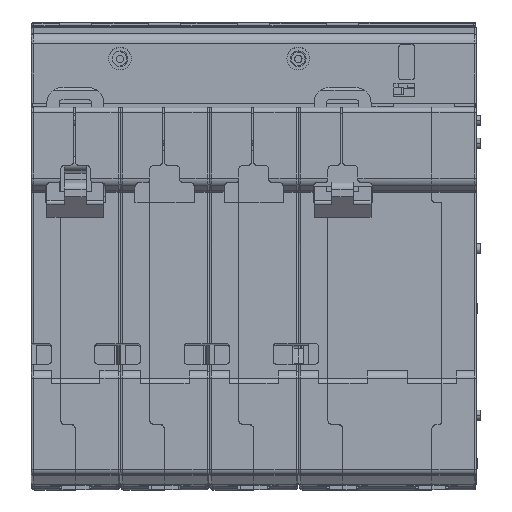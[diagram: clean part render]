
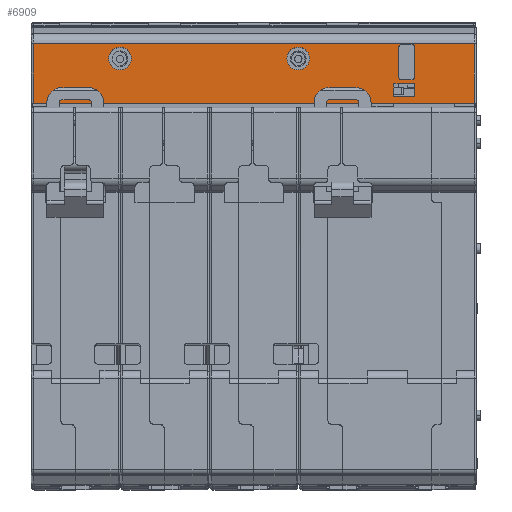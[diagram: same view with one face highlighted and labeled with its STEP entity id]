
A CAD part, top view. The second image highlights one B-rep face of the part: STEP entity #6909.
In plain terms, the highlighted planar face has unit normal (0, 0, 1).
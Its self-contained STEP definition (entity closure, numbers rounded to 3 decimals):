
#1502=CARTESIAN_POINT('',(8.85,9.5,-6.6));
#1503=DIRECTION('',(0.,0.,1.));
#1504=DIRECTION('',(0.,1.,0.));
#1505=AXIS2_PLACEMENT_3D('',#1502,#1503,#1504);
#1507=CARTESIAN_POINT('',(8.85,9.5,-6.6));
#1508=DIRECTION('',(0.,0.,1.));
#1509=DIRECTION('',(0.,-1.,0.));
#1510=AXIS2_PLACEMENT_3D('',#1507,#1508,#1509);
#1512=CARTESIAN_POINT('',(-26.55,9.5,-6.6));
#1513=DIRECTION('',(0.,0.,1.));
#1514=DIRECTION('',(0.,1.,0.));
#1515=AXIS2_PLACEMENT_3D('',#1512,#1513,#1514);
#1517=CARTESIAN_POINT('',(-26.55,9.5,-6.6));
#1518=DIRECTION('',(0.,0.,1.));
#1519=DIRECTION('',(0.,-1.,0.));
#1520=AXIS2_PLACEMENT_3D('',#1517,#1518,#1519);
#1522=DIRECTION('',(0.,1.,0.));
#1523=VECTOR('',#1522,2.55);
#1524=CARTESIAN_POINT('',(31.95,1.95,-6.6));
#1525=LINE('',#1524,#1523);
#1526=DIRECTION('',(-1.,0.,0.));
#1527=VECTOR('',#1526,4.1);
#1528=CARTESIAN_POINT('',(31.95,4.5,-6.6));
#1529=LINE('',#1528,#1527);
#1530=DIRECTION('',(0.,-1.,0.));
#1531=VECTOR('',#1530,2.55);
#1532=CARTESIAN_POINT('',(27.85,4.5,-6.6));
#1533=LINE('',#1532,#1531);
#1534=DIRECTION('',(1.,0.,0.));
#1535=VECTOR('',#1534,4.1);
#1536=CARTESIAN_POINT('',(27.85,1.95,-6.6));
#1537=LINE('',#1536,#1535);
#1538=DIRECTION('',(0.,-1.,0.));
#1539=VECTOR('',#1538,6.);
#1540=CARTESIAN_POINT('',(31.95,11.8,-6.6));
#1541=LINE('',#1540,#1539);
#1542=DIRECTION('',(-1.,0.,0.));
#1543=VECTOR('',#1542,2.1);
#1544=CARTESIAN_POINT('',(31.45,12.3,-6.6));
#1545=LINE('',#1544,#1543);
#1546=CARTESIAN_POINT('',(29.35,11.8,-6.6));
#1547=DIRECTION('',(0.,0.,1.));
#1548=DIRECTION('',(0.,1.,0.));
#1549=AXIS2_PLACEMENT_3D('',#1546,#1547,#1548);
#1551=DIRECTION('',(0.,-1.,0.));
#1552=VECTOR('',#1551,6.);
#1553=CARTESIAN_POINT('',(28.85,11.8,-6.6));
#1554=LINE('',#1553,#1552);
#1555=CARTESIAN_POINT('',(29.35,5.8,-6.6));
#1556=DIRECTION('',(0.,0.,1.));
#1557=DIRECTION('',(-1.,0.,0.));
#1558=AXIS2_PLACEMENT_3D('',#1555,#1556,#1557);
#1560=DIRECTION('',(1.,0.,0.));
#1561=VECTOR('',#1560,2.1);
#1562=CARTESIAN_POINT('',(29.35,5.3,-6.6));
#1563=LINE('',#1562,#1561);
#1564=DIRECTION('',(-1.,0.,0.));
#1565=VECTOR('',#1564,87.7);
#1566=CARTESIAN_POINT('',(43.85,0.6,-6.6));
#1567=LINE('',#1566,#1565);
#1568=DIRECTION('',(0.,1.,0.));
#1569=VECTOR('',#1568,11.874);
#1570=CARTESIAN_POINT('',(-43.85,0.6,-6.6));
#1571=LINE('',#1570,#1569);
#1572=DIRECTION('',(-1.,0.,0.));
#1573=VECTOR('',#1572,87.7);
#1574=CARTESIAN_POINT('',(43.85,12.474,-6.6));
#1575=LINE('',#1574,#1573);
#1576=DIRECTION('',(0.,-1.,0.));
#1577=VECTOR('',#1576,11.874);
#1578=CARTESIAN_POINT('',(43.85,12.474,-6.6));
#1579=LINE('',#1578,#1577);
#4229=CARTESIAN_POINT('',(31.45,11.8,-6.6));
#4230=DIRECTION('',(0.,0.,-1.));
#4231=DIRECTION('',(0.,1.,0.));
#4232=AXIS2_PLACEMENT_3D('',#4229,#4230,#4231);
#4234=CARTESIAN_POINT('',(31.45,5.8,-6.6));
#4235=DIRECTION('',(0.,0.,-1.));
#4236=DIRECTION('',(1.,0.,0.));
#4237=AXIS2_PLACEMENT_3D('',#4234,#4235,#4236);
#4458=CARTESIAN_POINT('',(8.85,11.75,-6.6));
#4459=CARTESIAN_POINT('',(8.85,7.25,-6.6));
#4460=VERTEX_POINT('',#4458);
#4461=VERTEX_POINT('',#4459);
#4462=CARTESIAN_POINT('',(-26.55,11.75,-6.6));
#4463=CARTESIAN_POINT('',(-26.55,7.25,-6.6));
#4464=VERTEX_POINT('',#4462);
#4465=VERTEX_POINT('',#4463);
#4630=CARTESIAN_POINT('',(31.95,1.95,-6.6));
#4631=CARTESIAN_POINT('',(31.95,4.5,-6.6));
#4632=VERTEX_POINT('',#4630);
#4633=VERTEX_POINT('',#4631);
#4634=CARTESIAN_POINT('',(27.85,4.5,-6.6));
#4635=VERTEX_POINT('',#4634);
#4636=CARTESIAN_POINT('',(27.85,1.95,-6.6));
#4637=VERTEX_POINT('',#4636);
#5631=CARTESIAN_POINT('',(-43.85,12.474,-6.6));
#5632=VERTEX_POINT('',#5631);
#5638=CARTESIAN_POINT('',(43.85,12.474,-6.6));
#5640=VERTEX_POINT('',#5638);
#5741=CARTESIAN_POINT('',(28.85,11.8,-6.6));
#5742=VERTEX_POINT('',#5741);
#5743=CARTESIAN_POINT('',(29.35,12.3,-6.6));
#5744=VERTEX_POINT('',#5743);
#5749=CARTESIAN_POINT('',(31.45,12.3,-6.6));
#5750=VERTEX_POINT('',#5749);
#5751=CARTESIAN_POINT('',(31.95,11.8,-6.6));
#5752=VERTEX_POINT('',#5751);
#5757=CARTESIAN_POINT('',(31.95,5.8,-6.6));
#5758=VERTEX_POINT('',#5757);
#5759=CARTESIAN_POINT('',(31.45,5.3,-6.6));
#5760=VERTEX_POINT('',#5759);
#5765=CARTESIAN_POINT('',(29.35,5.3,-6.6));
#5766=VERTEX_POINT('',#5765);
#5767=CARTESIAN_POINT('',(28.85,5.8,-6.6));
#5768=VERTEX_POINT('',#5767);
#5803=CARTESIAN_POINT('',(43.85,0.6,-6.6));
#5804=VERTEX_POINT('',#5803);
#5805=CARTESIAN_POINT('',(-43.85,0.6,-6.6));
#5806=VERTEX_POINT('',#5805);
#6854=CARTESIAN_POINT('',(-44.25,14.009,-6.6));
#6855=DIRECTION('',(0.,0.,1.));
#6856=DIRECTION('',(0.,-1.,0.));
#6857=AXIS2_PLACEMENT_3D('',#6854,#6855,#6856);
#6858=PLANE('',#6857);
#6860=ORIENTED_EDGE('',*,*,#6859,.T.);
#6862=ORIENTED_EDGE('',*,*,#6861,.T.);
#6864=ORIENTED_EDGE('',*,*,#6863,.F.);
#6866=ORIENTED_EDGE('',*,*,#6865,.T.);
#6867=EDGE_LOOP('',(#6860,#6862,#6864,#6866));
#6868=FACE_OUTER_BOUND('',#6867,.F.);
#6870=ORIENTED_EDGE('',*,*,#6869,.T.);
#6872=ORIENTED_EDGE('',*,*,#6871,.T.);
#6873=EDGE_LOOP('',(#6870,#6872));
#6874=FACE_BOUND('',#6873,.F.);
#6876=ORIENTED_EDGE('',*,*,#6875,.T.);
#6878=ORIENTED_EDGE('',*,*,#6877,.T.);
#6880=ORIENTED_EDGE('',*,*,#6879,.T.);
#6882=ORIENTED_EDGE('',*,*,#6881,.T.);
#6883=EDGE_LOOP('',(#6876,#6878,#6880,#6882));
#6884=FACE_BOUND('',#6883,.F.);
#6886=ORIENTED_EDGE('',*,*,#6885,.F.);
#6888=ORIENTED_EDGE('',*,*,#6887,.F.);
#6890=ORIENTED_EDGE('',*,*,#6889,.T.);
#6892=ORIENTED_EDGE('',*,*,#6891,.T.);
#6894=ORIENTED_EDGE('',*,*,#6893,.T.);
#6896=ORIENTED_EDGE('',*,*,#6895,.T.);
#6898=ORIENTED_EDGE('',*,*,#6897,.T.);
#6900=ORIENTED_EDGE('',*,*,#6899,.F.);
#6901=EDGE_LOOP('',(#6886,#6888,#6890,#6892,#6894,#6896,#6898,#6900));
#6902=FACE_BOUND('',#6901,.F.);
#6904=ORIENTED_EDGE('',*,*,#6903,.T.);
#6906=ORIENTED_EDGE('',*,*,#6905,.T.);
#6907=EDGE_LOOP('',(#6904,#6906));
#6908=FACE_BOUND('',#6907,.F.);
#6909=ADVANCED_FACE('',(#6868,#6874,#6884,#6902,#6908),#6858,.T.);
#1506=CIRCLE('',#1505,2.25);
#1511=CIRCLE('',#1510,2.25);
#1516=CIRCLE('',#1515,2.25);
#1521=CIRCLE('',#1520,2.25);
#1550=CIRCLE('',#1549,0.5);
#1559=CIRCLE('',#1558,0.5);
#4233=CIRCLE('',#4232,0.5);
#4238=CIRCLE('',#4237,0.5);
#6859=EDGE_CURVE('',#5804,#5806,#1567,.T.);
#6861=EDGE_CURVE('',#5806,#5632,#1571,.T.);
#6863=EDGE_CURVE('',#5640,#5632,#1575,.T.);
#6865=EDGE_CURVE('',#5640,#5804,#1579,.T.);
#6869=EDGE_CURVE('',#4464,#4465,#1516,.T.);
#6871=EDGE_CURVE('',#4465,#4464,#1521,.T.);
#6875=EDGE_CURVE('',#4632,#4633,#1525,.T.);
#6877=EDGE_CURVE('',#4633,#4635,#1529,.T.);
#6879=EDGE_CURVE('',#4635,#4637,#1533,.T.);
#6881=EDGE_CURVE('',#4637,#4632,#1537,.T.);
#6885=EDGE_CURVE('',#5752,#5758,#1541,.T.);
#6887=EDGE_CURVE('',#5750,#5752,#4233,.T.);
#6889=EDGE_CURVE('',#5750,#5744,#1545,.T.);
#6891=EDGE_CURVE('',#5744,#5742,#1550,.T.);
#6893=EDGE_CURVE('',#5742,#5768,#1554,.T.);
#6895=EDGE_CURVE('',#5768,#5766,#1559,.T.);
#6897=EDGE_CURVE('',#5766,#5760,#1563,.T.);
#6899=EDGE_CURVE('',#5758,#5760,#4238,.T.);
#6903=EDGE_CURVE('',#4460,#4461,#1506,.T.);
#6905=EDGE_CURVE('',#4461,#4460,#1511,.T.);
